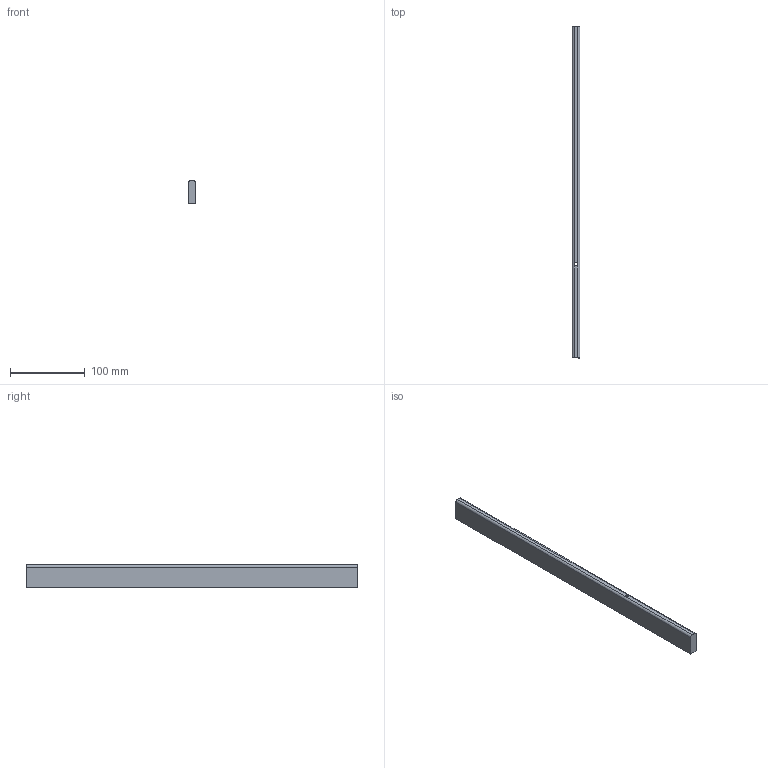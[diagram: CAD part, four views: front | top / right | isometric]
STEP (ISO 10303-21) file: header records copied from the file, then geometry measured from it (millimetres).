
FILE_DESCRIPTION (( 'STEP AP214' ), '1' );
FILE_NAME ('_Seitenreling_SP60702400_RL445.step', '2010-09-06T14:52:08', ( 'grass' ), ( '' ), 'SwSTEP 2.0', 'SolidWorks 2010', '' );
FILE_SCHEMA (( 'AUTOMOTIVE_DESIGN' ));
Length unit declared in the file: millimetre
Products named in the file (1): _Seitenreling_SP60702400_RL445
Bounding box: 10.5 x 445 x 30 mm (x, y, z)
Volume: 137537 mm3; surface area: 36059.7 mm2
Topology: 1 solids, 1 shells, 14 faces, 34 edges, 22 vertices
Faces by surface type: plane 8, cylinder 6
Entity records: 454 total; most frequent: DIRECTION 78, CARTESIAN_POINT 71, ORIENTED_EDGE 68, EDGE_CURVE 34, AXIS2_PLACEMENT_3D 29, VERTEX_POINT 22, LINE 20, VECTOR 20
